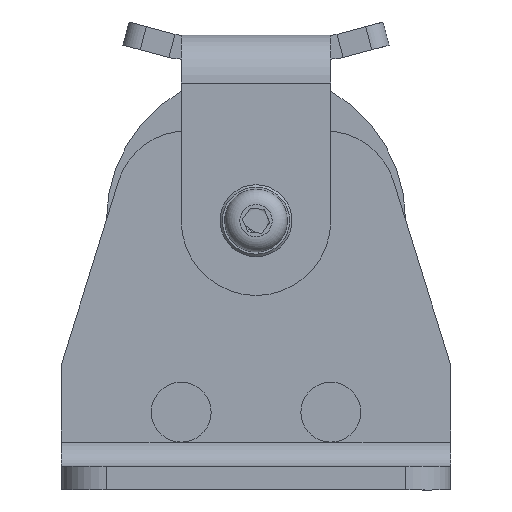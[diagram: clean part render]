
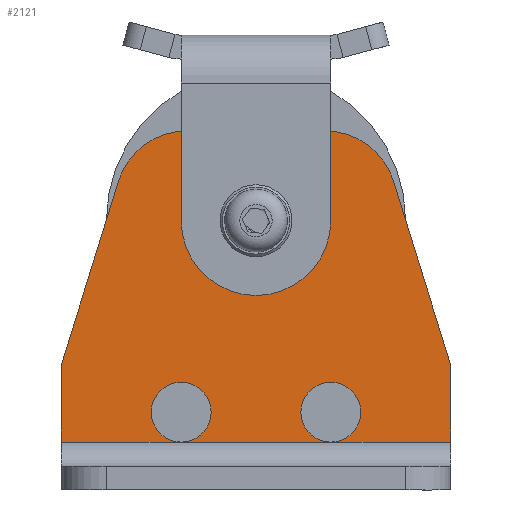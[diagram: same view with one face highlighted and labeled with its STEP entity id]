
A CAD part, front view. The second image highlights one B-rep face of the part: STEP entity #2121.
In plain terms, the highlighted planar face has unit normal (0, -1, 0) as drawn and (0, 0, 1) by its records, which use the part's own axes.
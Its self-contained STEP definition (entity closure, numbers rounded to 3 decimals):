
#131=FACE_BOUND('',#375,.T.);
#163=PLANE('',#2470);
#243=FACE_OUTER_BOUND('',#374,.T.);
#374=EDGE_LOOP('',(#1595,#1596,#1597,#1598,#1599,#1600,#1601,#1602,#1603,
#1604,#1605,#1606,#1607,#1608));
#375=EDGE_LOOP('',(#1609));
#520=LINE('',#3541,#676);
#521=LINE('',#3543,#677);
#522=LINE('',#3544,#678);
#525=LINE('',#3550,#681);
#533=LINE('',#3588,#689);
#537=LINE('',#3597,#693);
#540=LINE('',#3604,#696);
#541=LINE('',#3606,#697);
#676=VECTOR('',#2808,10.);
#677=VECTOR('',#2809,10.);
#678=VECTOR('',#2810,10.);
#681=VECTOR('',#2815,10.);
#689=VECTOR('',#2857,10.);
#693=VECTOR('',#2867,10.);
#696=VECTOR('',#2876,10.);
#697=VECTOR('',#2879,10.);
#820=CIRCLE('',#2455,5.);
#821=CIRCLE('',#2456,5.);
#822=CIRCLE('',#2458,5.);
#823=CIRCLE('',#2459,5.);
#824=CIRCLE('',#2461,3.25);
#825=CIRCLE('',#2464,12.);
#826=CIRCLE('',#2467,12.);
#968=VERTEX_POINT('',#3531);
#969=VERTEX_POINT('',#3535);
#970=VERTEX_POINT('',#3540);
#971=VERTEX_POINT('',#3542);
#973=VERTEX_POINT('',#3548);
#982=VERTEX_POINT('',#3572);
#983=VERTEX_POINT('',#3577);
#984=VERTEX_POINT('',#3582);
#985=VERTEX_POINT('',#3586);
#986=VERTEX_POINT('',#3587);
#987=VERTEX_POINT('',#3592);
#988=VERTEX_POINT('',#3596);
#989=VERTEX_POINT('',#3600);
#1181=EDGE_CURVE('',#970,#969,#520,.T.);
#1182=EDGE_CURVE('',#971,#970,#521,.T.);
#1183=EDGE_CURVE('',#968,#971,#522,.T.);
#1186=EDGE_CURVE('',#973,#969,#525,.T.);
#1199=EDGE_CURVE('',#970,#982,#820,.T.);
#1200=EDGE_CURVE('',#982,#970,#821,.T.);
#1202=EDGE_CURVE('',#971,#983,#822,.T.);
#1203=EDGE_CURVE('',#983,#971,#823,.T.);
#1205=EDGE_CURVE('',#984,#984,#824,.T.);
#1206=EDGE_CURVE('',#985,#986,#533,.T.);
#1209=EDGE_CURVE('',#986,#987,#825,.T.);
#1211=EDGE_CURVE('',#987,#988,#537,.T.);
#1213=EDGE_CURVE('',#988,#989,#826,.T.);
#1215=EDGE_CURVE('',#989,#973,#540,.T.);
#1216=EDGE_CURVE('',#968,#985,#541,.T.);
#1595=ORIENTED_EDGE('',*,*,#1181,.T.);
#1596=ORIENTED_EDGE('',*,*,#1186,.F.);
#1597=ORIENTED_EDGE('',*,*,#1215,.F.);
#1598=ORIENTED_EDGE('',*,*,#1213,.F.);
#1599=ORIENTED_EDGE('',*,*,#1211,.F.);
#1600=ORIENTED_EDGE('',*,*,#1209,.F.);
#1601=ORIENTED_EDGE('',*,*,#1206,.F.);
#1602=ORIENTED_EDGE('',*,*,#1216,.F.);
#1603=ORIENTED_EDGE('',*,*,#1183,.T.);
#1604=ORIENTED_EDGE('',*,*,#1202,.T.);
#1605=ORIENTED_EDGE('',*,*,#1203,.T.);
#1606=ORIENTED_EDGE('',*,*,#1182,.T.);
#1607=ORIENTED_EDGE('',*,*,#1199,.T.);
#1608=ORIENTED_EDGE('',*,*,#1200,.T.);
#1609=ORIENTED_EDGE('',*,*,#1205,.T.);
#2121=ADVANCED_FACE('',(#243,#131),#163,.T.);
#2455=AXIS2_PLACEMENT_3D('',#3574,#2839,#2840);
#2456=AXIS2_PLACEMENT_3D('',#3575,#2841,#2842);
#2458=AXIS2_PLACEMENT_3D('',#3579,#2846,#2847);
#2459=AXIS2_PLACEMENT_3D('',#3580,#2848,#2849);
#2461=AXIS2_PLACEMENT_3D('',#3584,#2853,#2854);
#2464=AXIS2_PLACEMENT_3D('',#3593,#2862,#2863);
#2467=AXIS2_PLACEMENT_3D('',#3601,#2871,#2872);
#2470=AXIS2_PLACEMENT_3D('',#3607,#2880,#2881);
#2808=DIRECTION('',(1.,0.,0.));
#2809=DIRECTION('',(1.,0.,0.));
#2810=DIRECTION('',(1.,0.,0.));
#2815=DIRECTION('',(0.,-1.,0.));
#2839=DIRECTION('center_axis',(0.,0.,-1.));
#2840=DIRECTION('ref_axis',(-1.,0.,0.));
#2841=DIRECTION('center_axis',(0.,0.,-1.));
#2842=DIRECTION('ref_axis',(-1.,0.,0.));
#2846=DIRECTION('center_axis',(0.,0.,-1.));
#2847=DIRECTION('ref_axis',(-1.,0.,0.));
#2848=DIRECTION('center_axis',(0.,0.,-1.));
#2849=DIRECTION('ref_axis',(-1.,0.,0.));
#2853=DIRECTION('center_axis',(0.,0.,-1.));
#2854=DIRECTION('ref_axis',(-1.,0.,0.));
#2857=DIRECTION('',(0.297,0.955,0.));
#2862=DIRECTION('center_axis',(0.,0.,-1.));
#2863=DIRECTION('ref_axis',(0.,1.,0.));
#2867=DIRECTION('',(1.,0.,0.));
#2871=DIRECTION('center_axis',(0.,0.,-1.));
#2872=DIRECTION('ref_axis',(0.955,0.297,0.));
#2876=DIRECTION('',(0.297,-0.955,0.));
#2879=DIRECTION('',(0.,1.,0.));
#2880=DIRECTION('center_axis',(0.,0.,1.));
#2881=DIRECTION('ref_axis',(1.,0.,0.));
#3531=CARTESIAN_POINT('',(-32.5,8.,4.));
#3535=CARTESIAN_POINT('',(32.5,8.,4.));
#3540=CARTESIAN_POINT('',(12.5,8.,4.));
#3541=CARTESIAN_POINT('',(16.25,8.,4.));
#3542=CARTESIAN_POINT('',(-12.5,8.,4.));
#3543=CARTESIAN_POINT('',(16.25,8.,4.));
#3544=CARTESIAN_POINT('',(16.25,8.,4.));
#3548=CARTESIAN_POINT('',(32.5,21.,4.));
#3550=CARTESIAN_POINT('',(32.5,0.,4.));
#3572=CARTESIAN_POINT('',(17.5,13.,4.));
#3574=CARTESIAN_POINT('Origin',(12.5,13.,4.));
#3575=CARTESIAN_POINT('Origin',(12.5,13.,4.));
#3577=CARTESIAN_POINT('',(-7.5,13.,4.));
#3579=CARTESIAN_POINT('Origin',(-12.5,13.,4.));
#3580=CARTESIAN_POINT('Origin',(-12.5,13.,4.));
#3582=CARTESIAN_POINT('',(3.25,45.,4.));
#3584=CARTESIAN_POINT('Origin',(0.,45.,4.));
#3586=CARTESIAN_POINT('',(-32.5,21.,4.));
#3587=CARTESIAN_POINT('',(-22.984,51.567,4.));
#3588=CARTESIAN_POINT('',(-22.984,51.567,4.));
#3592=CARTESIAN_POINT('',(-11.526,60.,4.));
#3593=CARTESIAN_POINT('Origin',(-11.526,48.,4.));
#3596=CARTESIAN_POINT('',(11.526,60.,4.));
#3597=CARTESIAN_POINT('',(11.526,60.,4.));
#3600=CARTESIAN_POINT('',(22.984,51.567,4.));
#3601=CARTESIAN_POINT('Origin',(11.526,48.,4.));
#3604=CARTESIAN_POINT('',(32.5,21.,4.));
#3606=CARTESIAN_POINT('',(-32.5,21.,4.));
#3607=CARTESIAN_POINT('Origin',(0.,26.189,4.));
